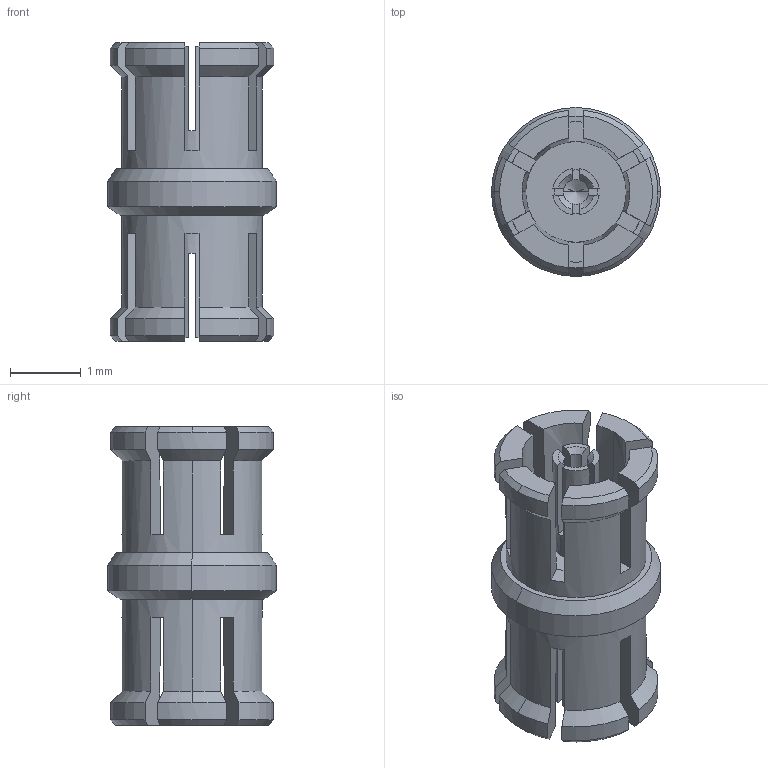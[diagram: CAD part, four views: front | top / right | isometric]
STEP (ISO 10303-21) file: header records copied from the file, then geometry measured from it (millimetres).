
FILE_DESCRIPTION (( 'STEP AP203' ), '1' );
FILE_NAME ('8828000G001-014(block).STEP', '2016-10-31T14:37:46', ( 'klewis' ), ( '' ), 'SwSTEP 2.0', 'SolidWorks 2014', '' );
FILE_SCHEMA (( 'CONFIG_CONTROL_DESIGN' ));
Length unit declared in the file: inch
Products named in the file (1): 8828000G001-014(block)
Bounding box: 2.39 x 2.39 x 4.22 mm (x, y, z)
Volume: 8.5 mm3; surface area: 66.4 mm2
Topology: 1 solids, 1 shells, 168 faces, 472 edges, 306 vertices
Faces by surface type: plane 84, cone 52, cylinder 32
Entity records: 5728 total; most frequent: CARTESIAN_POINT 1372, ORIENTED_EDGE 936, DIRECTION 882, EDGE_CURVE 468, AXIS2_PLACEMENT_3D 349, VERTEX_POINT 306, LINE 184, VECTOR 184
